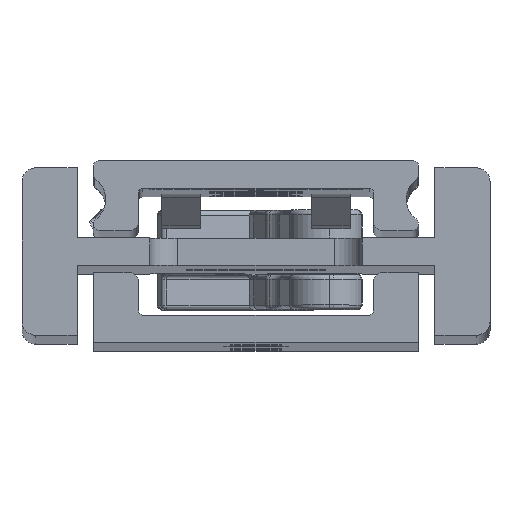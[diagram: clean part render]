
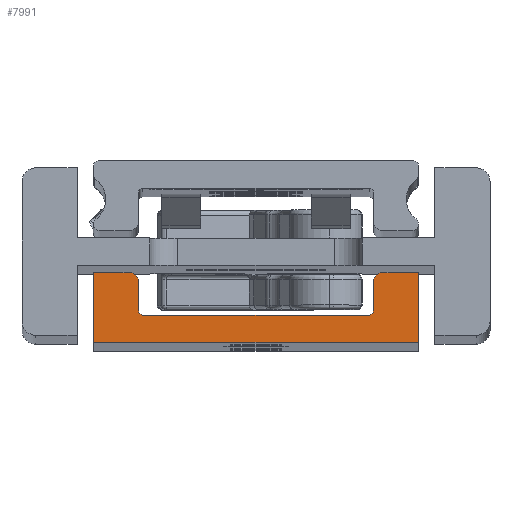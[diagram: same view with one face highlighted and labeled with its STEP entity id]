
A CAD part, top view. The second image highlights one B-rep face of the part: STEP entity #7991.
In plain terms, the highlighted planar face has unit normal (0, 0, 1).
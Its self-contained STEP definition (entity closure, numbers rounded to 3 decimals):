
#242 = CIRCLE ( 'NONE', #11884, 0.5 ) ;
#276 = ORIENTED_EDGE ( 'NONE', *, *, #9067, .T. ) ;
#329 = CARTESIAN_POINT ( 'NONE',  ( 12.25, -1.2, 274. ) ) ;
#539 = DIRECTION ( 'NONE',  ( -1., 0., 0. ) ) ;
#569 = VERTEX_POINT ( 'NONE', #3036 ) ;
#599 = EDGE_CURVE ( 'NONE', #16637, #569, #12829, .T. ) ;
#607 = CARTESIAN_POINT ( 'NONE',  ( 12.25, -0.7, 274. ) ) ;
#619 = DIRECTION ( 'NONE',  ( 0., 0., -1. ) ) ;
#741 = CIRCLE ( 'NONE', #12074, 0.7 ) ;
#751 = AXIS2_PLACEMENT_3D ( 'NONE', #6249, #13332, #539 ) ;
#845 = VERTEX_POINT ( 'NONE', #18290 ) ;
#960 = EDGE_CURVE ( 'NONE', #2954, #845, #3957, .T. ) ;
#1083 = EDGE_CURVE ( 'NONE', #6460, #14163, #17994, .T. ) ;
#1399 = AXIS2_PLACEMENT_3D ( 'NONE', #8757, #14431, #1645 ) ;
#1422 = CARTESIAN_POINT ( 'NONE',  ( -17.6, -3.65, 274. ) ) ;
#1645 = DIRECTION ( 'NONE',  ( 1., 0., 0. ) ) ;
#2031 = VECTOR ( 'NONE', #8635, 1000. ) ;
#2132 = VERTEX_POINT ( 'NONE', #12601 ) ;
#2187 = DIRECTION ( 'NONE',  ( 0., -1., 0. ) ) ;
#2313 = DIRECTION ( 'NONE',  ( -1., 0., 0. ) ) ;
#2446 = CARTESIAN_POINT ( 'NONE',  ( -17.6, 2.809, 274. ) ) ;
#2954 = VERTEX_POINT ( 'NONE', #14049 ) ;
#3036 = CARTESIAN_POINT ( 'NONE',  ( -17.6, 3.4, 274. ) ) ;
#3061 = PLANE ( 'NONE',  #1399 ) ;
#3162 = CARTESIAN_POINT ( 'NONE',  ( -12.25, -0.7, 274. ) ) ;
#3188 = DIRECTION ( 'NONE',  ( 1., 0., 0. ) ) ;
#3321 = VERTEX_POINT ( 'NONE', #2446 ) ;
#3325 = DIRECTION ( 'NONE',  ( -1., 0., 0. ) ) ;
#3363 = ORIENTED_EDGE ( 'NONE', *, *, #18216, .T. ) ;
#3451 = LINE ( 'NONE', #12113, #16585 ) ;
#3465 = CARTESIAN_POINT ( 'NONE',  ( 13.75, 3.4, 274. ) ) ;
#3477 = DIRECTION ( 'NONE',  ( 0., 0., 1. ) ) ;
#3754 = CARTESIAN_POINT ( 'NONE',  ( -17.6, 2.591, 274. ) ) ;
#3957 = CIRCLE ( 'NONE', #6340, 0.7 ) ;
#4546 = CARTESIAN_POINT ( 'NONE',  ( -16.909, 2.7, 274. ) ) ;
#4695 = DIRECTION ( 'NONE',  ( 1., 0., 0. ) ) ;
#4718 = DIRECTION ( 'NONE',  ( -1., 0., 0. ) ) ;
#4779 = DIRECTION ( 'NONE',  ( -1., 0., 0. ) ) ;
#4824 = CARTESIAN_POINT ( 'NONE',  ( 17.6, 3.4, 274. ) ) ;
#4867 = CARTESIAN_POINT ( 'NONE',  ( 16.909, 2.7, 274. ) ) ;
#4976 = ORIENTED_EDGE ( 'NONE', *, *, #960, .T. ) ;
#4992 = VECTOR ( 'NONE', #4779, 1000. ) ;
#5071 = ORIENTED_EDGE ( 'NONE', *, *, #14437, .T. ) ;
#5233 = DIRECTION ( 'NONE',  ( 0., 1., 0. ) ) ;
#5311 = VERTEX_POINT ( 'NONE', #11289 ) ;
#5362 = CARTESIAN_POINT ( 'NONE',  ( -17.6, 3.4, 274. ) ) ;
#5373 = CARTESIAN_POINT ( 'NONE',  ( 12.75, -0.7, 274. ) ) ;
#5902 = LINE ( 'NONE', #17541, #13964 ) ;
#6128 = DIRECTION ( 'NONE',  ( 0., -1., 0. ) ) ;
#6249 = CARTESIAN_POINT ( 'NONE',  ( -13.75, 2.4, 274. ) ) ;
#6297 = CARTESIAN_POINT ( 'NONE',  ( 12.75, -0.7, 274. ) ) ;
#6340 = AXIS2_PLACEMENT_3D ( 'NONE', #4867, #17546, #4695 ) ;
#6401 = DIRECTION ( 'NONE',  ( 0., 0., -1. ) ) ;
#6418 = ORIENTED_EDGE ( 'NONE', *, *, #9984, .T. ) ;
#6460 = VERTEX_POINT ( 'NONE', #11752 ) ;
#6918 = CARTESIAN_POINT ( 'NONE',  ( -17.609, 2.7, 274. ) ) ;
#7605 = AXIS2_PLACEMENT_3D ( 'NONE', #4546, #10315, #3325 ) ;
#7647 = VECTOR ( 'NONE', #2187, 1000. ) ;
#7991 = ADVANCED_FACE ( 'NONE', ( #15830 ), #3061, .T. ) ;
#8635 = DIRECTION ( 'NONE',  ( 0., 1., 0. ) ) ;
#8641 = EDGE_CURVE ( 'NONE', #3321, #569, #15226, .T. ) ;
#8757 = CARTESIAN_POINT ( 'NONE',  ( 16.909, 2.7, 274. ) ) ;
#8983 = CARTESIAN_POINT ( 'NONE',  ( 17.6, 3.4, 274. ) ) ;
#9067 = EDGE_CURVE ( 'NONE', #13201, #6460, #242, .T. ) ;
#9167 = VECTOR ( 'NONE', #16803, 1000. ) ;
#9274 = ORIENTED_EDGE ( 'NONE', *, *, #15461, .T. ) ;
#9613 = VERTEX_POINT ( 'NONE', #3754 ) ;
#9615 = ORIENTED_EDGE ( 'NONE', *, *, #11064, .T. ) ;
#9654 = EDGE_LOOP ( 'NONE', ( #12632, #3363, #10967, #9615, #12451, #4976, #11143, #6418, #11921, #5071, #9274, #12965, #276, #14748, #14155, #15489, #11134 ) ) ;
#9937 = VERTEX_POINT ( 'NONE', #8983 ) ;
#9984 = EDGE_CURVE ( 'NONE', #9937, #16267, #16224, .T. ) ;
#10039 = CIRCLE ( 'NONE', #10934, 0.5 ) ;
#10189 = VECTOR ( 'NONE', #4718, 1000. ) ;
#10315 = DIRECTION ( 'NONE',  ( 0., 0., 1. ) ) ;
#10378 = CIRCLE ( 'NONE', #13655, 1. ) ;
#10566 = CIRCLE ( 'NONE', #7605, 0.7 ) ;
#10580 = EDGE_CURVE ( 'NONE', #16083, #2954, #12542, .T. ) ;
#10898 = CIRCLE ( 'NONE', #751, 1. ) ;
#10934 = AXIS2_PLACEMENT_3D ( 'NONE', #607, #6401, #17589 ) ;
#10967 = ORIENTED_EDGE ( 'NONE', *, *, #18140, .T. ) ;
#11064 = EDGE_CURVE ( 'NONE', #5311, #16083, #5902, .T. ) ;
#11134 = ORIENTED_EDGE ( 'NONE', *, *, #8641, .F. ) ;
#11143 = ORIENTED_EDGE ( 'NONE', *, *, #11956, .F. ) ;
#11289 = CARTESIAN_POINT ( 'NONE',  ( -17.6, -4.15, 274. ) ) ;
#11406 = DIRECTION ( 'NONE',  ( 0., -1., 0. ) ) ;
#11752 = CARTESIAN_POINT ( 'NONE',  ( -12.75, -0.7, 274. ) ) ;
#11884 = AXIS2_PLACEMENT_3D ( 'NONE', #3162, #619, #14532 ) ;
#11921 = ORIENTED_EDGE ( 'NONE', *, *, #16259, .T. ) ;
#11956 = EDGE_CURVE ( 'NONE', #9937, #845, #12183, .T. ) ;
#12074 = AXIS2_PLACEMENT_3D ( 'NONE', #16234, #3477, #16064 ) ;
#12113 = CARTESIAN_POINT ( 'NONE',  ( -12.25, -1.2, 274. ) ) ;
#12183 = LINE ( 'NONE', #4824, #14875 ) ;
#12451 = ORIENTED_EDGE ( 'NONE', *, *, #10580, .T. ) ;
#12542 = LINE ( 'NONE', #14125, #2031 ) ;
#12597 = CARTESIAN_POINT ( 'NONE',  ( -12.75, -0.7, 274. ) ) ;
#12601 = CARTESIAN_POINT ( 'NONE',  ( 12.75, 2.4, 274. ) ) ;
#12632 = ORIENTED_EDGE ( 'NONE', *, *, #13132, .T. ) ;
#12829 = LINE ( 'NONE', #14491, #10189 ) ;
#12898 = LINE ( 'NONE', #1422, #17436 ) ;
#12965 = ORIENTED_EDGE ( 'NONE', *, *, #17154, .T. ) ;
#13132 = EDGE_CURVE ( 'NONE', #3321, #18295, #10566, .T. ) ;
#13201 = VERTEX_POINT ( 'NONE', #17485 ) ;
#13332 = DIRECTION ( 'NONE',  ( 0., 0., 1. ) ) ;
#13655 = AXIS2_PLACEMENT_3D ( 'NONE', #15633, #14250, #17403 ) ;
#13964 = VECTOR ( 'NONE', #3188, 1000. ) ;
#13996 = EDGE_CURVE ( 'NONE', #14163, #16637, #10898, .T. ) ;
#14049 = CARTESIAN_POINT ( 'NONE',  ( 17.6, 2.591, 274. ) ) ;
#14125 = CARTESIAN_POINT ( 'NONE',  ( 17.6, -3.65, 274. ) ) ;
#14132 = CARTESIAN_POINT ( 'NONE',  ( -13.75, 3.4, 274. ) ) ;
#14155 = ORIENTED_EDGE ( 'NONE', *, *, #13996, .T. ) ;
#14163 = VERTEX_POINT ( 'NONE', #16838 ) ;
#14250 = DIRECTION ( 'NONE',  ( 0., 0., 1. ) ) ;
#14337 = CARTESIAN_POINT ( 'NONE',  ( 13.75, 3.4, 274. ) ) ;
#14347 = VERTEX_POINT ( 'NONE', #329 ) ;
#14431 = DIRECTION ( 'NONE',  ( 0., 0., 1. ) ) ;
#14437 = EDGE_CURVE ( 'NONE', #2132, #14762, #14965, .T. ) ;
#14491 = CARTESIAN_POINT ( 'NONE',  ( -16.909, 3.4, 274. ) ) ;
#14532 = DIRECTION ( 'NONE',  ( 1., 0., 0. ) ) ;
#14748 = ORIENTED_EDGE ( 'NONE', *, *, #1083, .T. ) ;
#14762 = VERTEX_POINT ( 'NONE', #6297 ) ;
#14875 = VECTOR ( 'NONE', #6128, 1000. ) ;
#14965 = LINE ( 'NONE', #5373, #7647 ) ;
#15226 = LINE ( 'NONE', #5362, #9167 ) ;
#15461 = EDGE_CURVE ( 'NONE', #14762, #14347, #10039, .T. ) ;
#15489 = ORIENTED_EDGE ( 'NONE', *, *, #599, .T. ) ;
#15633 = CARTESIAN_POINT ( 'NONE',  ( 13.75, 2.4, 274. ) ) ;
#15830 = FACE_OUTER_BOUND ( 'NONE', #9654, .T. ) ;
#16064 = DIRECTION ( 'NONE',  ( -1., 0., 0. ) ) ;
#16083 = VERTEX_POINT ( 'NONE', #16665 ) ;
#16224 = LINE ( 'NONE', #3465, #4992 ) ;
#16234 = CARTESIAN_POINT ( 'NONE',  ( -16.909, 2.7, 274. ) ) ;
#16259 = EDGE_CURVE ( 'NONE', #16267, #2132, #10378, .T. ) ;
#16267 = VERTEX_POINT ( 'NONE', #14337 ) ;
#16585 = VECTOR ( 'NONE', #2313, 1000. ) ;
#16637 = VERTEX_POINT ( 'NONE', #14132 ) ;
#16665 = CARTESIAN_POINT ( 'NONE',  ( 17.6, -4.15, 274. ) ) ;
#16803 = DIRECTION ( 'NONE',  ( 0., 1., 0. ) ) ;
#16838 = CARTESIAN_POINT ( 'NONE',  ( -12.75, 2.4, 274. ) ) ;
#17154 = EDGE_CURVE ( 'NONE', #14347, #13201, #3451, .T. ) ;
#17353 = VECTOR ( 'NONE', #5233, 1000. ) ;
#17403 = DIRECTION ( 'NONE',  ( 1., 0., 0. ) ) ;
#17436 = VECTOR ( 'NONE', #11406, 1000. ) ;
#17485 = CARTESIAN_POINT ( 'NONE',  ( -12.25, -1.2, 274. ) ) ;
#17541 = CARTESIAN_POINT ( 'NONE',  ( -17.1, -4.15, 274. ) ) ;
#17546 = DIRECTION ( 'NONE',  ( 0., 0., 1. ) ) ;
#17589 = DIRECTION ( 'NONE',  ( -1., 0., 0. ) ) ;
#17994 = LINE ( 'NONE', #12597, #17353 ) ;
#18140 = EDGE_CURVE ( 'NONE', #9613, #5311, #12898, .T. ) ;
#18216 = EDGE_CURVE ( 'NONE', #18295, #9613, #741, .T. ) ;
#18290 = CARTESIAN_POINT ( 'NONE',  ( 17.6, 2.809, 274. ) ) ;
#18295 = VERTEX_POINT ( 'NONE', #6918 ) ;
